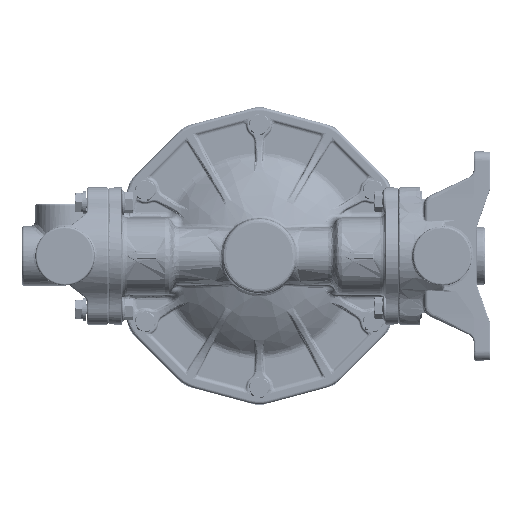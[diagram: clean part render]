
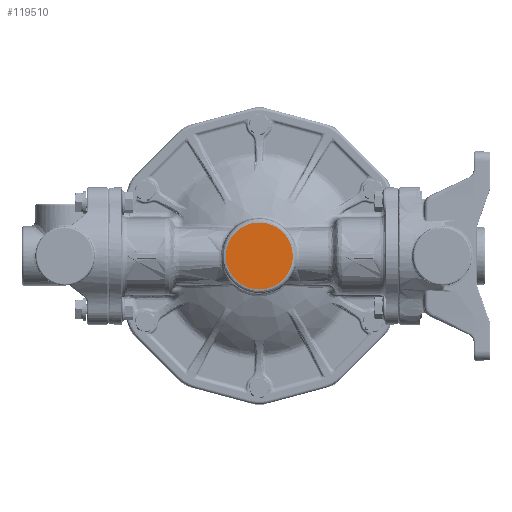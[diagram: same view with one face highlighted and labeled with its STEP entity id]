
A CAD part, left-side view. The second image highlights one B-rep face of the part: STEP entity #119510.
In plain terms, the highlighted planar face has unit normal (-1, 0, 0).
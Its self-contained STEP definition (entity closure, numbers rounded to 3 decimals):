
#87287 = CARTESIAN_POINT ( 'NONE',  ( -63., 10.89, -17.56 ) ) ;
#92652 = CARTESIAN_POINT ( 'NONE',  ( -63., 0.001, 17.545 ) ) ;
#119510 = ADVANCED_FACE ( 'NONE', ( #157805 ), #517113, .F. ) ;
#129322 = B_SPLINE_CURVE_WITH_KNOTS ( 'NONE', 5,
 ( #561730, #87287, #231399, #565797, #279497, #613931 ),
 .UNSPECIFIED., .F., .F.,
 ( 6, 6 ),
 ( 0., 1. ),
 .UNSPECIFIED. ) ;
#157805 = FACE_OUTER_BOUND ( 'NONE', #169185, .T. ) ;
#169185 = EDGE_LOOP ( 'NONE', ( #299564, #230027 ) ) ;
#186881 = DIRECTION ( 'NONE',  ( 1., 0., 0. ) ) ;
#230027 = ORIENTED_EDGE ( 'NONE', *, *, #506697, .F. ) ;
#231362 = VERTEX_POINT ( 'NONE', #252982 ) ;
#231399 = CARTESIAN_POINT ( 'NONE',  ( -63., 22.603, -8.977 ) ) ;
#236765 = CARTESIAN_POINT ( 'NONE',  ( -63., -22.6, 9.004 ) ) ;
#252982 = CARTESIAN_POINT ( 'NONE',  ( -63., -0.022, -17.545 ) ) ;
#279497 = CARTESIAN_POINT ( 'NONE',  ( -63., 10.876, 17.553 ) ) ;
#284825 = CARTESIAN_POINT ( 'NONE',  ( -63., -10.889, -17.53 ) ) ;
#299564 = ORIENTED_EDGE ( 'NONE', *, *, #478387, .F. ) ;
#315404 = AXIS2_PLACEMENT_3D ( 'NONE', #565194, #186881, #521208 ) ;
#317311 = B_SPLINE_CURVE_WITH_KNOTS ( 'NONE', 5,
 ( #92652, #426987, #236765, #571180, #284825, #619271 ),
 .UNSPECIFIED., .F., .F.,
 ( 6, 6 ),
 ( 0., 1. ),
 .UNSPECIFIED. ) ;
#426987 = CARTESIAN_POINT ( 'NONE',  ( -63., -10.892, 17.539 ) ) ;
#450009 = CARTESIAN_POINT ( 'NONE',  ( -63., 0.001, 17.545 ) ) ;
#478387 = EDGE_CURVE ( 'NONE', #569116, #231362, #317311, .T. ) ;
#506697 = EDGE_CURVE ( 'NONE', #231362, #569116, #129322, .T. ) ;
#517113 = PLANE ( 'NONE',  #315404 ) ;
#521208 = DIRECTION ( 'NONE',  ( 0., -1., 0. ) ) ;
#561730 = CARTESIAN_POINT ( 'NONE',  ( -63., -0.022, -17.545 ) ) ;
#565194 = CARTESIAN_POINT ( 'NONE',  ( -63., 22.6, 18.46 ) ) ;
#565797 = CARTESIAN_POINT ( 'NONE',  ( -63., 22.646, 8.962 ) ) ;
#569116 = VERTEX_POINT ( 'NONE', #450009 ) ;
#571180 = CARTESIAN_POINT ( 'NONE',  ( -63., -22.634, -8.985 ) ) ;
#613931 = CARTESIAN_POINT ( 'NONE',  ( -63., 0.001, 17.545 ) ) ;
#619271 = CARTESIAN_POINT ( 'NONE',  ( -63., -0.022, -17.545 ) ) ;
